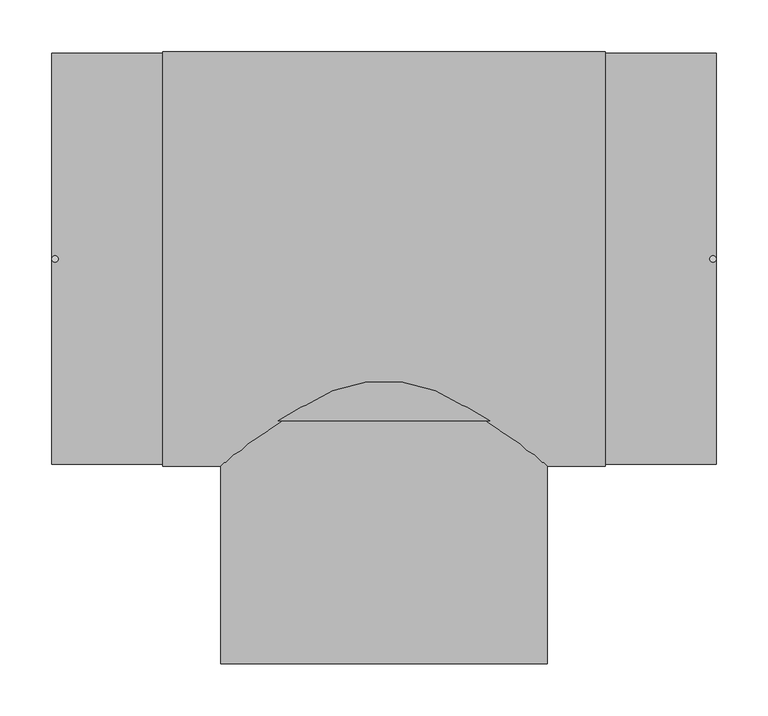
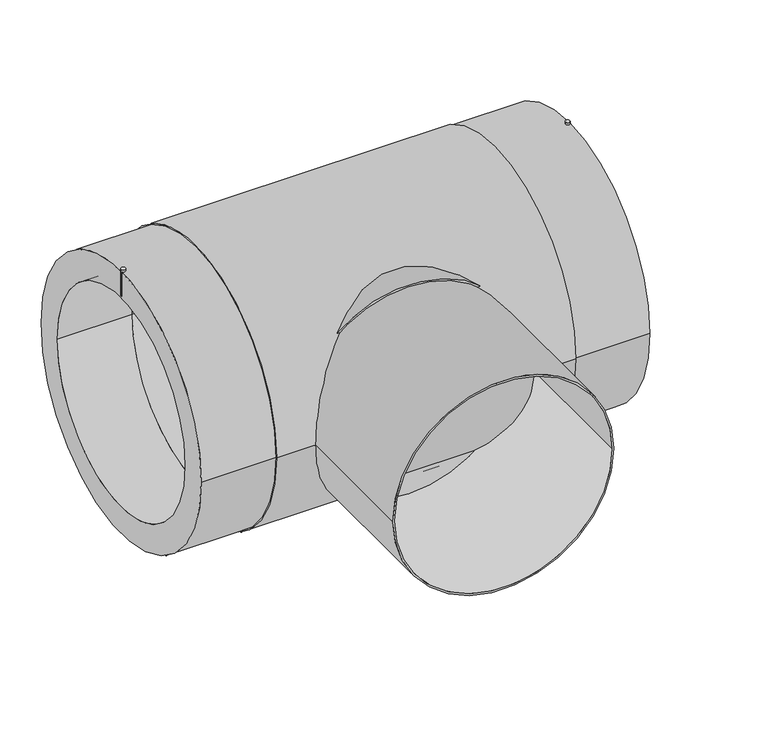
"""IFC4 building model written with IfcOpenShell, lengths in millimetres: pipe fitting geometry, EGB_VASEN_ PPR_Te electrosoldable WXRD300_Te reducida electrosoldable WXRD310 : Te electrosoldable."""

from ifc_helpers import new_model, si_unit, point, frame, frame_2d, origin, origin_2d, place, context, project, spatial, circle_curve, trimmed, segment, composite_curve, outline, extrude, source, transform, mapped, element, save


def pipe_fitting_95ddf64c(model_context):
    return source(origin(), model_context, "Body", "SweptSolid", [
        extrude(outline(composite_curve([segment(trimmed(circle_curve(frame_2d((-317.0, 0.0)), 3.0), [point((-320.0, 0.0))], [point((-314.0, 0.0))], False, "CARTESIAN"), True, "CONTINUOUS"), segment(trimmed(circle_curve(frame_2d((-317.0, 0.0)), 3.0), [point((-314.0, 0.0))], [point((-320.0, 0.0))], False, "CARTESIAN"), True, "CONTINUOUS")], self_intersect=False)), frame((0.0, 0.0, 160.5), z_axis=(0.0, 0.0, 1.0), x_axis=(1.0, 0.0, 0.0)), (0.0, 0.0, 1.0), 40.5),
        extrude(outline(composite_curve([segment(trimmed(circle_curve(frame_2d((317.0, 0.0)), 3.0), [point((314.0, 0.0))], [point((320.0, 0.0))], False, "CARTESIAN"), True, "CONTINUOUS"), segment(trimmed(circle_curve(frame_2d((317.0, 0.0)), 3.0), [point((320.0, 0.0))], [point((314.0, 0.0))], False, "CARTESIAN"), True, "CONTINUOUS")], self_intersect=False)), frame((0.0, 0.0, 160.5), z_axis=(0.0, 0.0, 1.0), x_axis=(1.0, 0.0, 0.0)), (0.0, 0.0, 1.0), 40.5),
        extrude(outline(composite_curve([segment(trimmed(circle_curve(origin_2d(), 160.0), [point((0.0, 160.0))], [point((0.0, -160.0))], False, "CARTESIAN"), True, "CONTINUOUS"), segment(trimmed(circle_curve(origin_2d(), 160.0), [point((0.0, -160.0))], [point((0.0, 160.0))], False, "CARTESIAN"), True, "CONTINUOUS")], self_intersect=False)), frame((0.0, -156.0, 0.0), z_axis=(0.0, 1.0, 0.0), x_axis=(0.0, 0.0, 1.0)), (0.0, 0.0, 1.0), 156.0),
        extrude(outline(composite_curve([segment(trimmed(circle_curve(origin_2d(), 157.5), [point((0.0, -157.5))], [point((0.0, 157.5))], False, "CARTESIAN"), True, "CONTINUOUS"), segment(trimmed(circle_curve(origin_2d(), 157.5), [point((0.0, 157.5))], [point((0.0, -157.5))], False, "CARTESIAN"), True, "CONTINUOUS")], self_intersect=False), holes=[composite_curve([segment(trimmed(circle_curve(origin_2d(), 155.0), [point((0.0, -155.0))], [point((0.0, 155.0))], True, "CARTESIAN"), True, "CONTINUOUS"), segment(trimmed(circle_curve(origin_2d(), 155.0), [point((0.0, 155.0))], [point((0.0, -155.0))], True, "CARTESIAN"), True, "CONTINUOUS")], self_intersect=False)]), frame((0.0, -390.0, 0.0), z_axis=(0.0, 1.0, 0.0), x_axis=(0.0, 0.0, 1.0)), (0.0, 0.0, 1.0), 234.0),
        extrude(outline(composite_curve([segment(trimmed(circle_curve(origin_2d(), 199.5), [point((-199.5, 0.0))], [point((199.5, 0.0))], False, "CARTESIAN"), True, "CONTINUOUS"), segment(trimmed(circle_curve(origin_2d(), 199.5), [point((199.5, 0.0))], [point((-199.5, 0.0))], False, "CARTESIAN"), True, "CONTINUOUS")], self_intersect=False), holes=[composite_curve([segment(trimmed(circle_curve(origin_2d(), 157.5), [point((-157.5, 0.0))], [point((157.5, 0.0))], True, "CARTESIAN"), True, "CONTINUOUS"), segment(trimmed(circle_curve(origin_2d(), 157.5), [point((157.5, 0.0))], [point((-157.5, 0.0))], True, "CARTESIAN"), True, "CONTINUOUS")], self_intersect=False)]), frame((-213.3333333, 0.0, 0.0), z_axis=(1.0, 0.0, 0.0), x_axis=(0.0, 1.0, 0.0)), (0.0, 0.0, 1.0), 426.6666667),
        extrude(outline(composite_curve([segment(trimmed(circle_curve(origin_2d(), 198.0), [point((-198.0, 0.0))], [point((198.0, 0.0))], False, "CARTESIAN"), True, "CONTINUOUS"), segment(trimmed(circle_curve(origin_2d(), 198.0), [point((198.0, 0.0))], [point((-198.0, 0.0))], False, "CARTESIAN"), True, "CONTINUOUS")], self_intersect=False), holes=[composite_curve([segment(trimmed(circle_curve(origin_2d(), 157.5), [point((-157.5, 0.0))], [point((157.5, 0.0))], True, "CARTESIAN"), True, "CONTINUOUS"), segment(trimmed(circle_curve(origin_2d(), 157.5), [point((157.5, 0.0))], [point((-157.5, 0.0))], True, "CARTESIAN"), True, "CONTINUOUS")], self_intersect=False)]), frame((-320.0, 0.0, 0.0), z_axis=(1.0, 0.0, 0.0), x_axis=(0.0, 1.0, 0.0)), (0.0, 0.0, 1.0), 640.0),
    ])


if __name__ == "__main__":
    model = new_model("IFC4")
    model_context = context("Model", 3, world=origin())
    ifc_project = project(units=[si_unit("LENGTHUNIT", "METRE", prefix="MILLI")], contexts=[model_context])
    site = spatial("IfcSite", under=ifc_project)
    building = spatial("IfcBuilding", under=site)
    placement = place(None, origin())
    pipe_fitting_shape = pipe_fitting_95ddf64c(model_context)
    element("IfcPipeFitting", 1, ObjectType="EGB_VASEN_ PPR_Te electrosoldable WXRD300_Te reducida electrosoldable WXRD310 : Te electrosoldable", at=placement, inside=building, context=model_context, shape_type="MappedRepresentation", body=[
        mapped(pipe_fitting_shape, transform((0.0, 0.0, 0.0), x_axis=(1.0, 0.0, 0.0), y_axis=(0.0, 1.0, 0.0), z_axis=(0.0, 0.0, 1.0))),
    ])
    save(model, "model.ifc")
